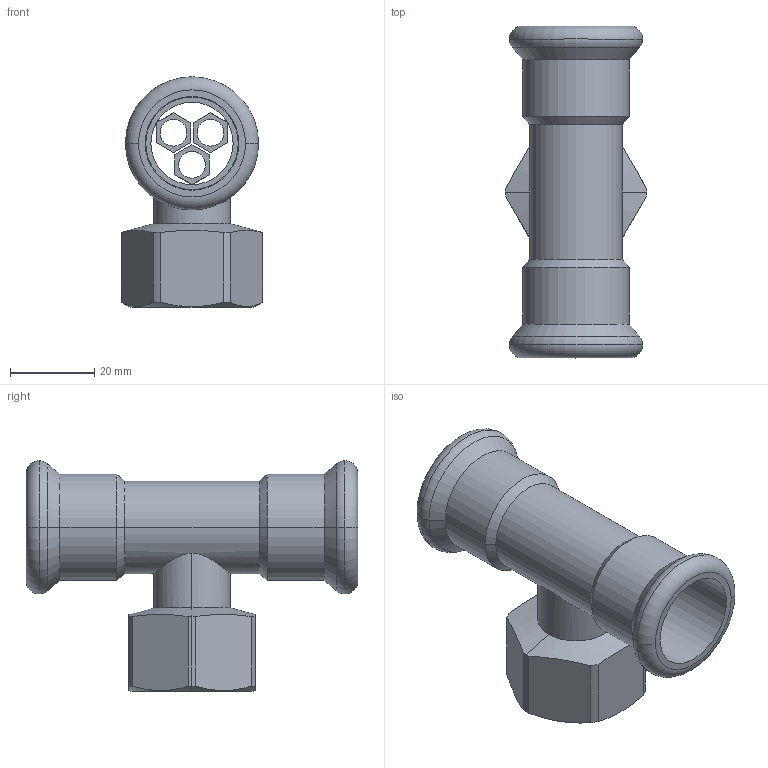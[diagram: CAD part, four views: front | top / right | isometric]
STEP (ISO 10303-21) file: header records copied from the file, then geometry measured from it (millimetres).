
FILE_DESCRIPTION(('OneSpaceDesigner STEP Export'),'2;1');
FILE_NAME('R2718 22xRp3-4x22.stp','2010-06-10T10:01:03',(''),(''),'OneSpace Designer STEP processor for AP214 (Solid Model)','OneSpace Modeling 15.00A 14-Mar-2007 (C) CoCreate Software GmbH','');
FILE_SCHEMA(('AUTOMOTIVE_DESIGN { 1 0 10303 214 1 1 1 1 }'));
Length unit declared in the file: millimetre
Products named in the file (2): R2718_22xRp3-4x22
Assembly tree (1 placements, depth 2):
  R2718_22xRp3-4x22
    R2718_22xRp3-4x22
Bounding box: 33.61 x 79 x 54.85 mm (x, y, z)
Volume: 18064.7 mm3; surface area: 19113.9 mm2
Topology: 1 solids, 1 shells, 186 faces, 471 edges, 302 vertices
Faces by surface type: plane 94, cylinder 64, cone 20, torus 8
Entity records: 6818 total; most frequent: CARTESIAN_POINT 2663, ORIENTED_EDGE 942, DIRECTION 725, EDGE_CURVE 471, VERTEX_POINT 302, VECTOR 287, LINE 287, EDGE_LOOP 221
